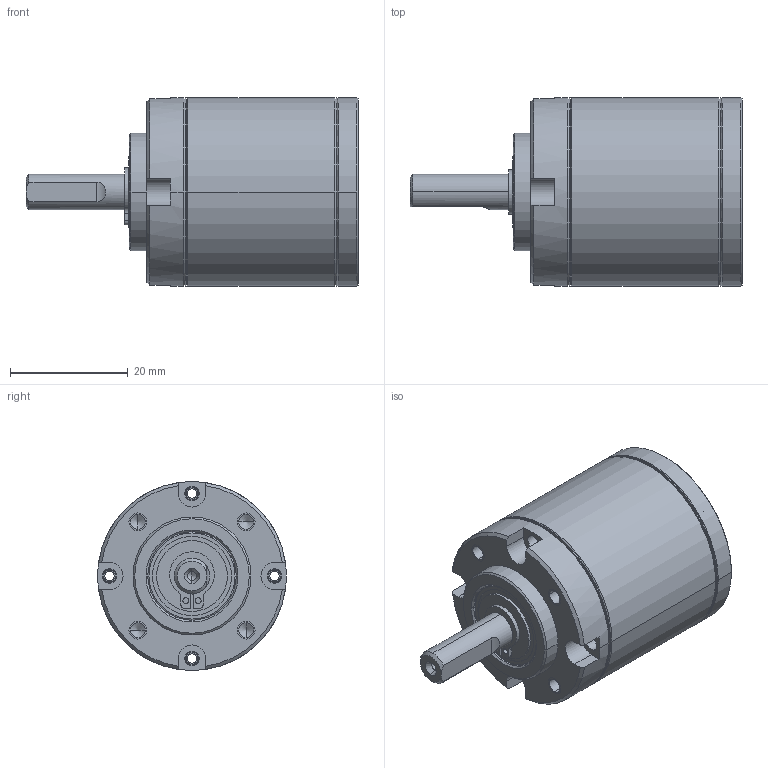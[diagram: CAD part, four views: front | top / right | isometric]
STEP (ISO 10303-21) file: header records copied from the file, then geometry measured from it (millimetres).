
FILE_DESCRIPTION((''),'2;1');
FILE_NAME('BBH_ASM','2023-03-20T',('Hsien.Hsu'),(''),'CREO PARAMETRIC BY PTC INC, 2016050','CREO PARAMETRIC BY PTC INC, 2016050','');
FILE_SCHEMA(('AUTOMOTIVE_DESIGN { 1 0 10303 214 1 1 1 1 }'));
Length unit declared in the file: millimetre
Products named in the file (12): NEWCOVER; C_LOCK; BALL_BEARING_M96860301; P32018_1107105_PW_; P32018_1109105_SW_; PG32CRING; NEWCOVER_ASM; 3202SG02_B; 3202SC02_B_ASM; 3201RSG0301; 3204LC0206100B; BBH_ASM
Assembly tree (14 placements, depth 3):
  BBH_ASM
    NEWCOVER_ASM
      NEWCOVER
      C_LOCK
      BALL_BEARING_M96860301  x2
      P32018_1107105_PW_
      P32018_1109105_SW_
      PG32CRING
    3202SC02_B_ASM
      3202SG02_B
      P32018_1109105_SW_
    3201RSG0301
    P32018_1107105_PW_
    3204LC0206100B
Bounding box: 56.3 x 32 x 32 mm (x, y, z)
Volume: 20708.3 mm3; surface area: 16371.6 mm2
Topology: 12 solids, 20 shells, 348 faces, 952 edges, 696 vertices
Faces by surface type: cylinder 179, cone 74, plane 71, torus 24
Entity records: 13771 total; most frequent: DIRECTION 1991, CARTESIAN_POINT 1904, ORIENTED_EDGE 1416, AXIS2_PLACEMENT_3D 807, EDGE_CURVE 724, PRESENTATION_STYLE_ASSIGNMENT 691, STYLED_ITEM 691, CURVE_STYLE 677
